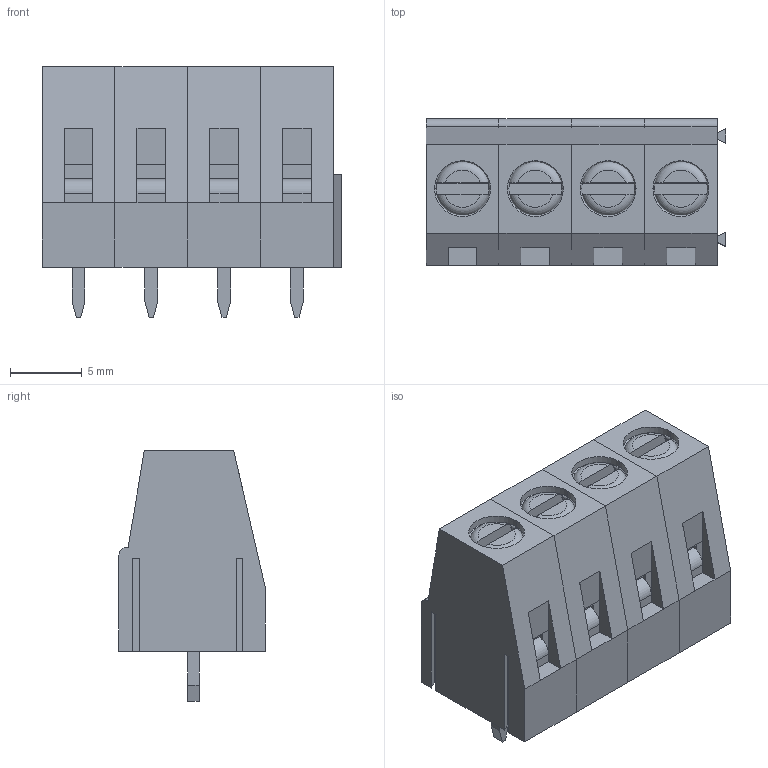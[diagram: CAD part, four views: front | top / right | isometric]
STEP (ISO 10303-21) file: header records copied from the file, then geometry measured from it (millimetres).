
FILE_DESCRIPTION (( 'STEP AP214' ), '1' );
FILE_NAME ('CONN-TH_4P-P5.08_DIBO_DB128V-5.08.STEP', '2024-05-21T06:18:44', ( '' ), ( '' ), 'SwSTEP 2.0', 'SolidWorks 2020', '' );
FILE_SCHEMA (( 'AUTOMOTIVE_DESIGN' ));
Length unit declared in the file: millimetre
Products named in the file (1): CONN-TH_4P-P5.08_DIBO_DB128V-5.08
Bounding box: 20.92 x 10.2 x 17.5 mm (x, y, z)
Volume: 1753.5 mm3; surface area: 4585.8 mm2
Topology: 12 solids, 12 shells, 880 faces, 2431 edges, 1602 vertices
Faces by surface type: plane 662, bspline 98, cylinder 88, torus 32
Entity records: 38144 total; most frequent: CARTESIAN_POINT 6300, ORIENTED_EDGE 4862, DIRECTION 4021, EDGE_CURVE 2431, LINE 1975, VECTOR 1975, VERTEX_POINT 1602, AXIS2_PLACEMENT_3D 1023
